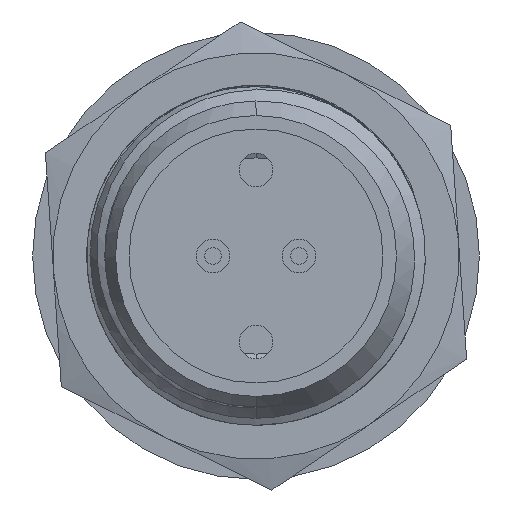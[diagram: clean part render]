
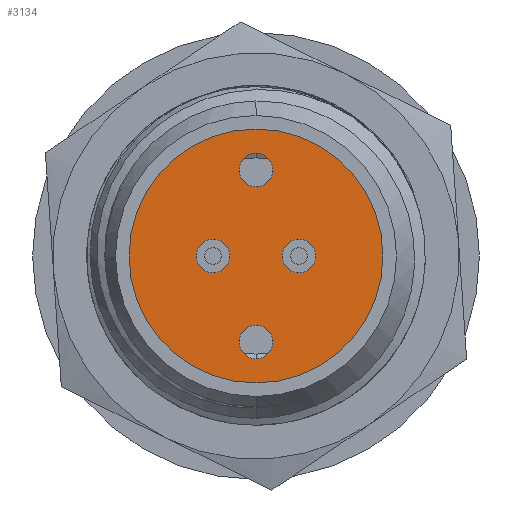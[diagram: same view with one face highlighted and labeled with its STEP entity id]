
A CAD part, front view. The second image highlights one B-rep face of the part: STEP entity #3134.
In plain terms, the highlighted planar face has unit normal (0, -1, 0).
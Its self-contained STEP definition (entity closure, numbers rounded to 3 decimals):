
#74 = AXIS2_PLACEMENT_3D ( 'NONE', #435, #3985, #945 ) ;
#87 = VERTEX_POINT ( 'NONE', #6431 ) ;
#115 = EDGE_CURVE ( 'NONE', #232, #6222, #5906, .T. ) ;
#232 = VERTEX_POINT ( 'NONE', #5895 ) ;
#292 = DIRECTION ( 'NONE',  ( 0., 1., 0. ) ) ;
#424 = EDGE_LOOP ( 'NONE', ( #3789, #1006 ) ) ;
#435 = CARTESIAN_POINT ( 'NONE',  ( 0., 0., 2.54 ) ) ;
#527 = EDGE_LOOP ( 'NONE', ( #3819, #3124 ) ) ;
#546 = CIRCLE ( 'NONE', #6382, 0.5 ) ;
#600 = CARTESIAN_POINT ( 'NONE',  ( 0., 0., 0. ) ) ;
#638 = CARTESIAN_POINT ( 'NONE',  ( 0., 0., -2.54 ) ) ;
#820 = FACE_OUTER_BOUND ( 'NONE', #527, .T. ) ;
#846 = CARTESIAN_POINT ( 'NONE',  ( -1.27, 0., 0. ) ) ;
#896 = CARTESIAN_POINT ( 'NONE',  ( 0., 0., 3.04 ) ) ;
#910 = CIRCLE ( 'NONE', #74, 0.5 ) ;
#945 = DIRECTION ( 'NONE',  ( 0., 0., 1. ) ) ;
#981 = FACE_BOUND ( 'NONE', #424, .T. ) ;
#989 = DIRECTION ( 'NONE',  ( 0., 1., 0. ) ) ;
#1006 = ORIENTED_EDGE ( 'NONE', *, *, #2407, .T. ) ;
#1042 = ORIENTED_EDGE ( 'NONE', *, *, #2920, .T. ) ;
#1086 = VERTEX_POINT ( 'NONE', #4084 ) ;
#1133 = VERTEX_POINT ( 'NONE', #3571 ) ;
#1147 = DIRECTION ( 'NONE',  ( 0., 0., 1. ) ) ;
#1184 = CIRCLE ( 'NONE', #4260, 3.75 ) ;
#1232 = AXIS2_PLACEMENT_3D ( 'NONE', #600, #2648, #6202 ) ;
#1289 = ORIENTED_EDGE ( 'NONE', *, *, #5126, .T. ) ;
#1345 = EDGE_CURVE ( 'NONE', #1133, #6127, #1839, .T. ) ;
#1476 = EDGE_CURVE ( 'NONE', #6127, #1133, #5422, .T. ) ;
#1654 = EDGE_CURVE ( 'NONE', #6535, #87, #1184, .T. ) ;
#1698 = DIRECTION ( 'NONE',  ( 0., 1., 0. ) ) ;
#1839 = CIRCLE ( 'NONE', #4975, 0.5 ) ;
#1922 = EDGE_LOOP ( 'NONE', ( #6451, #1289 ) ) ;
#2009 = FACE_BOUND ( 'NONE', #2446, .T. ) ;
#2179 = CARTESIAN_POINT ( 'NONE',  ( -1.27, 0., 0. ) ) ;
#2273 = EDGE_CURVE ( 'NONE', #4439, #1086, #3405, .T. ) ;
#2331 = DIRECTION ( 'NONE',  ( 0., 0., 1. ) ) ;
#2407 = EDGE_CURVE ( 'NONE', #6222, #232, #546, .T. ) ;
#2425 = DIRECTION ( 'NONE',  ( 0., 1., 0. ) ) ;
#2446 = EDGE_LOOP ( 'NONE', ( #4207, #5843 ) ) ;
#2612 = CARTESIAN_POINT ( 'NONE',  ( 1.27, 0., 0. ) ) ;
#2648 = DIRECTION ( 'NONE',  ( 0., 1., 0. ) ) ;
#2649 = CIRCLE ( 'NONE', #3732, 0.5 ) ;
#2691 = DIRECTION ( 'NONE',  ( 0., 0., 1. ) ) ;
#2802 = VERTEX_POINT ( 'NONE', #896 ) ;
#2902 = CARTESIAN_POINT ( 'NONE',  ( 0., 0., 2.54 ) ) ;
#2920 = EDGE_CURVE ( 'NONE', #1086, #4439, #2649, .T. ) ;
#3120 = DIRECTION ( 'NONE',  ( 0., 0., 1. ) ) ;
#3124 = ORIENTED_EDGE ( 'NONE', *, *, #1654, .F. ) ;
#3134 = ADVANCED_FACE ( 'NONE', ( #3359, #981, #5915, #2009, #820 ), #4677, .F. ) ;
#3211 = EDGE_CURVE ( 'NONE', #87, #6535, #5592, .T. ) ;
#3315 = CARTESIAN_POINT ( 'NONE',  ( 1.27, 0., 0. ) ) ;
#3357 = VERTEX_POINT ( 'NONE', #6079 ) ;
#3359 = FACE_BOUND ( 'NONE', #4819, .T. ) ;
#3402 = DIRECTION ( 'NONE',  ( 0., 0., 1. ) ) ;
#3405 = CIRCLE ( 'NONE', #5703, 0.5 ) ;
#3501 = CARTESIAN_POINT ( 'NONE',  ( -1.27, 0., -0.5 ) ) ;
#3571 = CARTESIAN_POINT ( 'NONE',  ( 1.27, 0., 0.5 ) ) ;
#3605 = AXIS2_PLACEMENT_3D ( 'NONE', #4737, #1698, #5247 ) ;
#3732 = AXIS2_PLACEMENT_3D ( 'NONE', #638, #4205, #1147 ) ;
#3789 = ORIENTED_EDGE ( 'NONE', *, *, #115, .T. ) ;
#3819 = ORIENTED_EDGE ( 'NONE', *, *, #3211, .F. ) ;
#3825 = DIRECTION ( 'NONE',  ( 0., 0., 1. ) ) ;
#3849 = EDGE_CURVE ( 'NONE', #2802, #3357, #910, .T. ) ;
#3985 = DIRECTION ( 'NONE',  ( 0., 1., 0. ) ) ;
#4040 = CARTESIAN_POINT ( 'NONE',  ( 0., 0., 0. ) ) ;
#4084 = CARTESIAN_POINT ( 'NONE',  ( 0., 0., -3.04 ) ) ;
#4140 = CARTESIAN_POINT ( 'NONE',  ( 0., 0., -2.04 ) ) ;
#4205 = DIRECTION ( 'NONE',  ( 0., 1., 0. ) ) ;
#4207 = ORIENTED_EDGE ( 'NONE', *, *, #1345, .T. ) ;
#4237 = CIRCLE ( 'NONE', #5632, 0.5 ) ;
#4260 = AXIS2_PLACEMENT_3D ( 'NONE', #4040, #989, #4549 ) ;
#4439 = VERTEX_POINT ( 'NONE', #4140 ) ;
#4549 = DIRECTION ( 'NONE',  ( 0., 0., 1. ) ) ;
#4667 = AXIS2_PLACEMENT_3D ( 'NONE', #846, #5390, #2331 ) ;
#4677 = PLANE ( 'NONE',  #1232 ) ;
#4737 = CARTESIAN_POINT ( 'NONE',  ( 0., 0., 0. ) ) ;
#4819 = EDGE_LOOP ( 'NONE', ( #5875, #1042 ) ) ;
#4975 = AXIS2_PLACEMENT_3D ( 'NONE', #2612, #6168, #3120 ) ;
#5126 = EDGE_CURVE ( 'NONE', #3357, #2802, #4237, .T. ) ;
#5247 = DIRECTION ( 'NONE',  ( 0., 0., 1. ) ) ;
#5390 = DIRECTION ( 'NONE',  ( 0., 1., 0. ) ) ;
#5422 = CIRCLE ( 'NONE', #5651, 0.5 ) ;
#5479 = CARTESIAN_POINT ( 'NONE',  ( 0., 0., -2.54 ) ) ;
#5592 = CIRCLE ( 'NONE', #3605, 3.75 ) ;
#5632 = AXIS2_PLACEMENT_3D ( 'NONE', #2902, #6444, #3402 ) ;
#5651 = AXIS2_PLACEMENT_3D ( 'NONE', #3315, #292, #3825 ) ;
#5703 = AXIS2_PLACEMENT_3D ( 'NONE', #5479, #2425, #5983 ) ;
#5747 = DIRECTION ( 'NONE',  ( 0., 1., 0. ) ) ;
#5843 = ORIENTED_EDGE ( 'NONE', *, *, #1476, .T. ) ;
#5875 = ORIENTED_EDGE ( 'NONE', *, *, #2273, .T. ) ;
#5895 = CARTESIAN_POINT ( 'NONE',  ( -1.27, 0., 0.5 ) ) ;
#5906 = CIRCLE ( 'NONE', #4667, 0.5 ) ;
#5915 = FACE_BOUND ( 'NONE', #1922, .T. ) ;
#5983 = DIRECTION ( 'NONE',  ( 0., 0., 1. ) ) ;
#6079 = CARTESIAN_POINT ( 'NONE',  ( 0., 0., 2.04 ) ) ;
#6127 = VERTEX_POINT ( 'NONE', #6435 ) ;
#6168 = DIRECTION ( 'NONE',  ( 0., 1., 0. ) ) ;
#6202 = DIRECTION ( 'NONE',  ( 0., 0., 1. ) ) ;
#6222 = VERTEX_POINT ( 'NONE', #3501 ) ;
#6382 = AXIS2_PLACEMENT_3D ( 'NONE', #2179, #5747, #2691 ) ;
#6431 = CARTESIAN_POINT ( 'NONE',  ( 0., 0., 3.75 ) ) ;
#6435 = CARTESIAN_POINT ( 'NONE',  ( 1.27, 0., -0.5 ) ) ;
#6444 = DIRECTION ( 'NONE',  ( 0., 1., 0. ) ) ;
#6451 = ORIENTED_EDGE ( 'NONE', *, *, #3849, .T. ) ;
#6481 = CARTESIAN_POINT ( 'NONE',  ( 0., 0., -3.75 ) ) ;
#6535 = VERTEX_POINT ( 'NONE', #6481 ) ;
